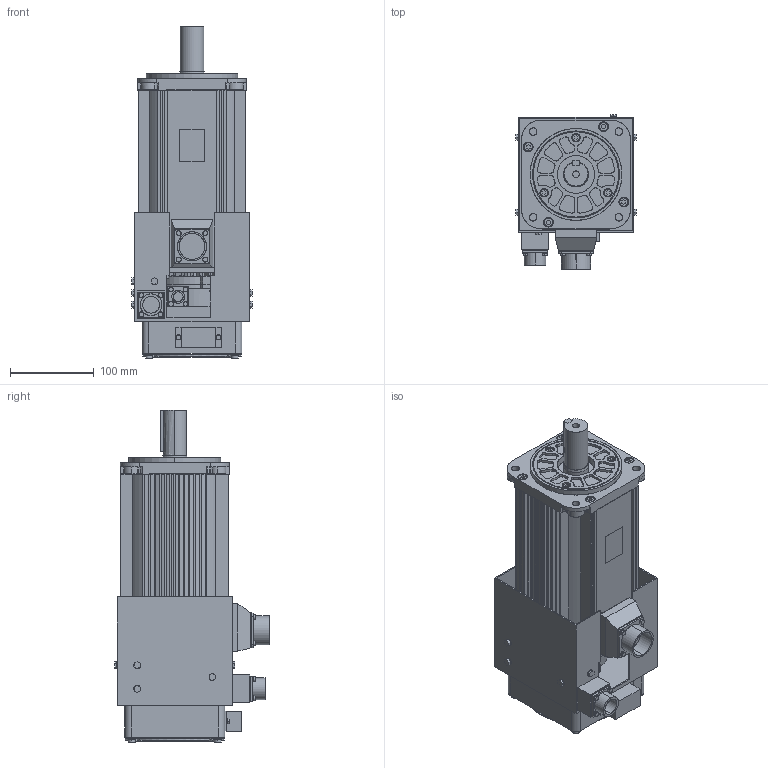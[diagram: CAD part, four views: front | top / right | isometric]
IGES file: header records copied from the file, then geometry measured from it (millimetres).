
Start section: SolidWorks IGES file using analytic representation for surfaces
Global section: file name: D:\YASKAWA\sgmsv_70__a61.IGS; native system: SolidWorks 2006 by SolidWorks Corporation; preprocessor: SolidWorks 2006 by SolidWorks Corporation; author: yamanouchi; date: 091204.113515; units: millimetre
Bounding box: 144 x 185.25 x 397.3 mm (x, y, z)
Surface area: 466036 mm2 (no closed solid volume)
Topology: 0 solids, 0 shells, 1472 faces, 17934 edges, 17934 vertices
Faces by surface type: bspline 1043, revolution 429
